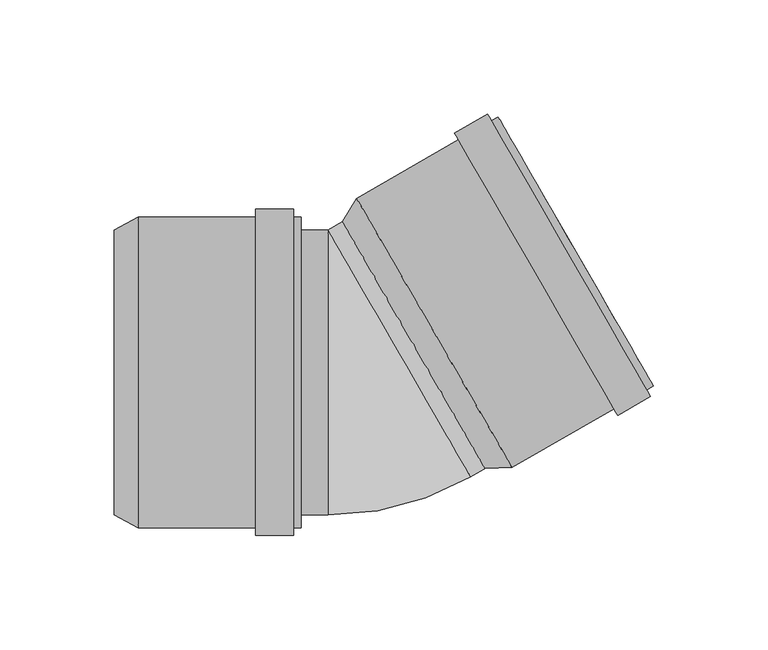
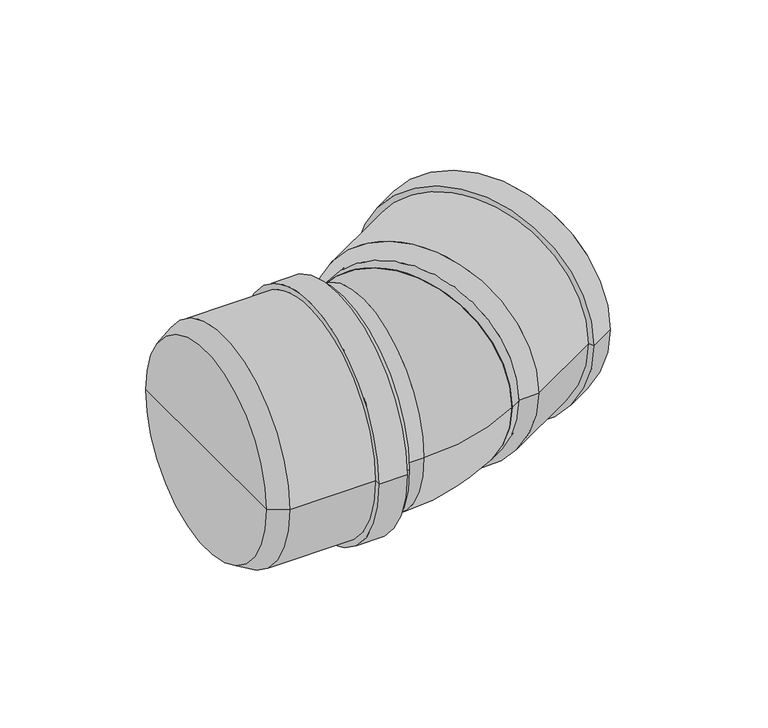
"""IFC4 building model written with IfcOpenShell, lengths in millimetres: pipe fitting geometry, pf_HTB : pf_HTB."""

from ifc_helpers import new_model, si_unit, point, frame, origin, origin_2d, place, context, project, spatial, polyline, circle_curve, ellipse_curve, trimmed, segment, composite_curve, outline, extrude, source, transform, mapped, element, save
from ifc_brep_helpers import plane_surface, cylinder_surface, revolved_surface, advanced_brep


def pipe_fitting_ec7f6db3(model_context):
    return source(origin(), model_context, "Body", "SolidModel", [
        advanced_brep(
        [(52.0346097, -42.1265877, 0.0), (-10.4653903, 66.1265877, 0.0), (-4.1721236, 76.22633, 0.0), (63.9278764, -41.72633, 0.0), (20.7846097, 12.0, 0.0), (125.8486928, -5.97633, 0.0), (57.7486928, 111.97633, 0.0), (60.5486928, 107.1265877, 0.0), (123.0486928, -1.1265877, 0.0), (122.9042064, -7.67633, 0.0), (54.8042064, 110.27633, 0.0), (124.6042064, -10.6208164, 0.0), (53.1042064, 113.2208164, 0.0), (110.2281847, -18.9208164, 0.0), (38.7281847, 104.9208164, 0.0), (108.5281847, -15.97633, 0.0), (40.4281847, 101.97633, 0.0), (61.1278764, -36.8765877, 0.0), (-1.3721236, 71.3765877, 0.0), (29.8778764, 17.25, 0.0)],
        [
            (0, 1, circle_curve(frame((20.7846097, 12.0, 0.0), z_axis=(0.8660254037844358, 0.5000000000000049, 0.0), x_axis=(-0.5000000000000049, 0.8660254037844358, 0.0)), 62.5)),
            (1, 2),
            (2, 3, circle_curve(frame((29.8778764, 17.25, 0.0), z_axis=(-0.8660254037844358, -0.5000000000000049, 0.0), x_axis=(-0.5000000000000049, 0.8660254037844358, 0.0)), 68.1)),
            (3, 0),
            (1, 0, circle_curve(frame((20.7846097, 12.0, 0.0), z_axis=(0.8660254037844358, 0.5000000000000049, 0.0), x_axis=(-0.5000000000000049, 0.8660254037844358, 0.0)), 62.5)),
            (3, 2, circle_curve(frame((29.8778764, 17.25, 0.0), z_axis=(-0.8660254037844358, -0.5000000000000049, 0.0), x_axis=(-0.5000000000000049, 0.8660254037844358, 0.0)), 68.1)),
            (4, 1),
            (0, 4),
            (5, 6, circle_curve(frame((91.7986928, 53.0, 0.0), z_axis=(0.8660254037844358, 0.5000000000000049, 0.0), x_axis=(-0.5000000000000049, 0.8660254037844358, 0.0)), 68.1)),
            (6, 7),
            (7, 8, circle_curve(frame((91.7986928, 53.0, 0.0), z_axis=(-0.8660254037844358, -0.5000000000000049, 0.0), x_axis=(-0.5000000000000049, 0.8660254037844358, 0.0)), 62.5)),
            (8, 5),
            (6, 5, circle_curve(frame((91.7986928, 53.0, 0.0), z_axis=(0.8660254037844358, 0.5000000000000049, 0.0), x_axis=(-0.5000000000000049, 0.8660254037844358, 0.0)), 68.1)),
            (8, 7, circle_curve(frame((91.7986928, 53.0, 0.0), z_axis=(-0.8660254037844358, -0.5000000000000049, 0.0), x_axis=(-0.5000000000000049, 0.8660254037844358, 0.0)), 62.5)),
            (9, 10, circle_curve(frame((88.8542064, 51.3, 0.0), z_axis=(0.8660254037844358, 0.5000000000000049, 0.0), x_axis=(-0.5000000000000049, 0.8660254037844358, 0.0)), 68.1)),
            (10, 6),
            (5, 9),
            (10, 9, circle_curve(frame((88.8542064, 51.3, 0.0), z_axis=(0.8660254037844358, 0.5000000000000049, 0.0), x_axis=(-0.5000000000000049, 0.8660254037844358, 0.0)), 68.1)),
            (11, 12, circle_curve(frame((88.8542064, 51.3, 0.0), z_axis=(0.8660254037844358, 0.5000000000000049, 0.0), x_axis=(-0.5000000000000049, 0.8660254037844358, 0.0)), 71.5)),
            (12, 10),
            (9, 11),
            (12, 11, circle_curve(frame((88.8542064, 51.3, 0.0), z_axis=(0.8660254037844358, 0.5000000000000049, 0.0), x_axis=(-0.5000000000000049, 0.8660254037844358, 0.0)), 71.5)),
            (13, 14, circle_curve(frame((74.4781847, 43.0, 0.0), z_axis=(0.8660254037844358, 0.5000000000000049, 0.0), x_axis=(-0.5000000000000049, 0.8660254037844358, 0.0)), 71.5)),
            (14, 12),
            (11, 13),
            (14, 13, circle_curve(frame((74.4781847, 43.0, 0.0), z_axis=(0.8660254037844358, 0.5000000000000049, 0.0), x_axis=(-0.5000000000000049, 0.8660254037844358, 0.0)), 71.5)),
            (15, 16, circle_curve(frame((74.4781847, 43.0, 0.0), z_axis=(0.8660254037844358, 0.5000000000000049, 0.0), x_axis=(-0.5000000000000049, 0.8660254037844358, 0.0)), 68.1)),
            (16, 14),
            (13, 15),
            (16, 15, circle_curve(frame((74.4781847, 43.0, 0.0), z_axis=(0.8660254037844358, 0.5000000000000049, 0.0), x_axis=(-0.5000000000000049, 0.8660254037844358, 0.0)), 68.1)),
            (2, 16),
            (15, 3),
            (17, 18, circle_curve(frame((29.8778764, 17.25, 0.0), z_axis=(0.8660254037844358, 0.5000000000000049, 0.0), x_axis=(-0.5000000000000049, 0.8660254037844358, 0.0)), 62.5)),
            (18, 19),
            (19, 17),
            (18, 17, circle_curve(frame((29.8778764, 17.25, 0.0), z_axis=(0.8660254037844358, 0.5000000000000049, 0.0), x_axis=(-0.5000000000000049, 0.8660254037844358, 0.0)), 62.5)),
            (7, 18),
            (17, 8),
        ],
        [
            revolved_surface(polyline([(-4.1721236, 76.22633, 0.0), (-10.4653903, 66.1265877, 0.0)]), (20.7846097, 12.0, 0.0), (-0.8660254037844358, -0.5000000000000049, 0.0)),
            plane_surface(frame((20.7846097, 12.0, 0.0), z_axis=(-0.8660254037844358, -0.5000000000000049, 0.0), x_axis=(-0.5000000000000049, 0.8660254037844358, 0.0))),
            plane_surface(frame((91.7986928, 53.0, 0.0), z_axis=(0.8660254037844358, 0.5000000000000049, 0.0), x_axis=(-0.5000000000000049, 0.8660254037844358, 0.0))),
            cylinder_surface(frame((20.7846097, 12.0, 0.0), z_axis=(-0.8660254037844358, -0.5000000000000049, 0.0), x_axis=(-0.5000000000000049, 0.8660254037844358, 0.0)), 68.1),
            plane_surface(frame((88.8542064, 51.3, 0.0), z_axis=(0.8660254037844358, 0.5000000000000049, 0.0), x_axis=(-0.5000000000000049, 0.8660254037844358, 0.0))),
            cylinder_surface(frame((20.7846097, 12.0, 0.0), z_axis=(-0.8660254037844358, -0.5000000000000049, 0.0), x_axis=(-0.5000000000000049, 0.8660254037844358, 0.0)), 71.5),
            plane_surface(frame((74.4781847, 43.0, 0.0), z_axis=(-0.8660254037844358, -0.5000000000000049, 0.0), x_axis=(-0.5000000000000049, 0.8660254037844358, 0.0))),
            plane_surface(frame((29.8778764, 17.25, 0.0), z_axis=(0.8660254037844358, 0.5000000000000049, 0.0), x_axis=(-0.5000000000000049, 0.8660254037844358, 0.0))),
            revolved_surface(polyline([(-1.3721236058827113, 71.37658771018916, 0.0), (60.54869281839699, 107.1265877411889, 0.0)]), (20.7846097, 12.0, 0.0), (-0.8660254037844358, -0.5000000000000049, 0.0)),
        ],
        [
            (0, [[1, 2, 3, 4]]),
            (0, [[5, -4, 6, -2]]),
            (1, [[7, -1, 8]]),
            (1, [[-8, -5, -7]]),
            (2, [[9, 10, 11, 12]]),
            (2, [[13, -12, 14, -10]]),
            (3, [[15, 16, -9, 17]]),
            (3, [[18, -17, -13, -16]]),
            (4, [[19, 20, -15, 21]]),
            (4, [[22, -21, -18, -20]]),
            (5, [[23, 24, -19, 25]]),
            (5, [[26, -25, -22, -24]]),
            (6, [[27, 28, -23, 29]]),
            (6, [[30, -29, -26, -28]]),
            (3, [[-3, 31, -27, 32]]),
            (3, [[-6, -32, -30, -31]]),
            (7, [[33, 34, 35]]),
            (7, [[36, -35, -34]]),
            (8, [[-11, 37, -33, 38]]),
            (8, [[-14, -38, -36, -37]]),
        ],
    ),
        advanced_brep(
        [(-110.5, -62.5, 0.0), (-110.5, 62.5, 0.0), (-100.0, 68.1, 0.0), (-100.0, -68.1, 0.0), (-110.5, 0.0, 0.0), (-28.5, -68.1, 0.0), (-28.5, 68.1, 0.0), (-28.5, 62.5, 0.0), (-28.5, -62.5, 0.0), (-31.9, -68.1, 0.0), (-31.9, 68.1, 0.0), (-31.9, -71.5, 0.0), (-31.9, 71.5, 0.0), (-48.5, -71.5, 0.0), (-48.5, 71.5, 0.0), (-48.5, -68.1, 0.0), (-48.5, 68.1, 0.0), (-100.0, -62.5, 0.0), (-100.0, 62.5, 0.0), (-100.0, 0.0, 0.0)],
        [
            (0, 1, circle_curve(frame((-110.5, 0.0, 0.0), z_axis=(1.0, 0.0, 0.0), x_axis=(0.0, 1.0, 0.0)), 62.5)),
            (1, 2),
            (2, 3, circle_curve(frame((-100.0, 0.0, 0.0), z_axis=(-1.0, 0.0, 0.0), x_axis=(0.0, 1.0, 0.0)), 68.1)),
            (3, 0),
            (1, 0, circle_curve(frame((-110.5, 0.0, 0.0), z_axis=(1.0, 0.0, 0.0), x_axis=(0.0, 1.0, 0.0)), 62.5)),
            (3, 2, circle_curve(frame((-100.0, 0.0, 0.0), z_axis=(-1.0, 0.0, 0.0), x_axis=(0.0, 1.0, 0.0)), 68.1)),
            (4, 1),
            (0, 4),
            (5, 6, circle_curve(frame((-28.5, 0.0, 0.0), z_axis=(1.0, 0.0, 0.0), x_axis=(0.0, 1.0, 0.0)), 68.1)),
            (6, 7),
            (7, 8, circle_curve(frame((-28.5, 0.0, 0.0), z_axis=(-1.0, 0.0, 0.0), x_axis=(0.0, 1.0, 0.0)), 62.5)),
            (8, 5),
            (6, 5, circle_curve(frame((-28.5, 0.0, 0.0), z_axis=(1.0, 0.0, 0.0), x_axis=(0.0, 1.0, 0.0)), 68.1)),
            (8, 7, circle_curve(frame((-28.5, 0.0, 0.0), z_axis=(-1.0, 0.0, 0.0), x_axis=(0.0, 1.0, 0.0)), 62.5)),
            (9, 10, circle_curve(frame((-31.9, 0.0, 0.0), z_axis=(1.0, 0.0, 0.0), x_axis=(0.0, 1.0, 0.0)), 68.1)),
            (10, 6),
            (5, 9),
            (10, 9, circle_curve(frame((-31.9, 0.0, 0.0), z_axis=(1.0, 0.0, 0.0), x_axis=(0.0, 1.0, 0.0)), 68.1)),
            (11, 12, circle_curve(frame((-31.9, 0.0, 0.0), z_axis=(1.0, 0.0, 0.0), x_axis=(0.0, 1.0, 0.0)), 71.5)),
            (12, 10),
            (9, 11),
            (12, 11, circle_curve(frame((-31.9, 0.0, 0.0), z_axis=(1.0, 0.0, 0.0), x_axis=(0.0, 1.0, 0.0)), 71.5)),
            (13, 14, circle_curve(frame((-48.5, 0.0, 0.0), z_axis=(1.0, 0.0, 0.0), x_axis=(0.0, 1.0, 0.0)), 71.5)),
            (14, 12),
            (11, 13),
            (14, 13, circle_curve(frame((-48.5, 0.0, 0.0), z_axis=(1.0, 0.0, 0.0), x_axis=(0.0, 1.0, 0.0)), 71.5)),
            (15, 16, circle_curve(frame((-48.5, 0.0, 0.0), z_axis=(1.0, 0.0, 0.0), x_axis=(0.0, 1.0, 0.0)), 68.1)),
            (16, 14),
            (13, 15),
            (16, 15, circle_curve(frame((-48.5, 0.0, 0.0), z_axis=(1.0, 0.0, 0.0), x_axis=(0.0, 1.0, 0.0)), 68.1)),
            (2, 16),
            (15, 3),
            (17, 18, circle_curve(frame((-100.0, 0.0, 0.0), z_axis=(1.0, 0.0, 0.0), x_axis=(0.0, 1.0, 0.0)), 62.5)),
            (18, 19),
            (19, 17),
            (18, 17, circle_curve(frame((-100.0, 0.0, 0.0), z_axis=(1.0, 0.0, 0.0), x_axis=(0.0, 1.0, 0.0)), 62.5)),
            (7, 18),
            (17, 8),
        ],
        [
            revolved_surface(polyline([(-100.0, 68.1, 0.0), (-110.5, 62.5, 0.0)]), (-110.5, 0.0, 0.0), (-1.0, 0.0, 0.0)),
            plane_surface(frame((-110.5, 0.0, 0.0), z_axis=(-1.0, 0.0, 0.0), x_axis=(0.0, 1.0, 0.0))),
            plane_surface(frame((-28.5, 0.0, 0.0), z_axis=(1.0, 0.0, 0.0), x_axis=(0.0, 1.0, 0.0))),
            cylinder_surface(frame((-110.5, 0.0, 0.0), z_axis=(-1.0, 0.0, 0.0), x_axis=(0.0, 1.0, 0.0)), 68.1),
            plane_surface(frame((-31.9, 0.0, 0.0), z_axis=(1.0, 0.0, 0.0), x_axis=(0.0, 1.0, 0.0))),
            cylinder_surface(frame((-110.5, 0.0, 0.0), z_axis=(-1.0, 0.0, 0.0), x_axis=(0.0, 1.0, 0.0)), 71.5),
            plane_surface(frame((-48.5, 0.0, 0.0), z_axis=(-1.0, 0.0, 0.0), x_axis=(0.0, 1.0, 0.0))),
            plane_surface(frame((-100.0, 0.0, 0.0), z_axis=(1.0, 0.0, 0.0), x_axis=(0.0, 1.0, 0.0))),
            revolved_surface(polyline([(-100.0, 62.5, 0.0), (-28.5, 62.5, 0.0)]), (-110.5, 0.0, 0.0), (-1.0, 0.0, 0.0)),
        ],
        [
            (0, [[1, 2, 3, 4]]),
            (0, [[5, -4, 6, -2]]),
            (1, [[7, -1, 8]]),
            (1, [[-8, -5, -7]]),
            (2, [[9, 10, 11, 12]]),
            (2, [[13, -12, 14, -10]]),
            (3, [[15, 16, -9, 17]]),
            (3, [[18, -17, -13, -16]]),
            (4, [[19, 20, -15, 21]]),
            (4, [[22, -21, -18, -20]]),
            (5, [[23, 24, -19, 25]]),
            (5, [[26, -25, -22, -24]]),
            (6, [[27, 28, -23, 29]]),
            (6, [[30, -29, -26, -28]]),
            (3, [[-3, 31, -27, 32]]),
            (3, [[-6, -32, -30, -31]]),
            (7, [[33, 34, 35]]),
            (7, [[36, -35, -34]]),
            (8, [[-11, 37, -33, 38]]),
            (8, [[-14, -38, -36, -37]]),
        ],
    ),
        extrude(outline(composite_curve([segment(trimmed(circle_curve(origin_2d(), 62.5), [point((0.0, -62.5))], [point((0.0, 62.5000001))], False, "CARTESIAN"), True, "CONTINUOUS"), segment(trimmed(circle_curve(origin_2d(), 62.5), [point((0.0, 62.5000001))], [point((0.0, -62.5))], False, "CARTESIAN"), True, "CONTINUOUS")], self_intersect=False)), frame((14.5031755, 8.3734123, 0.0), z_axis=(0.8660254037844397, 0.4999999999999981, 0.0), x_axis=(0.0, 0.0, 1.0)), (0.0, 0.0, 1.0), 17.7531755),
        extrude(outline(composite_curve([segment(trimmed(circle_curve(origin_2d(), 62.5), [point((-62.5, 0.0))], [point((62.5, 0.0))], False, "CARTESIAN"), True, "CONTINUOUS"), segment(trimmed(circle_curve(origin_2d(), 62.5), [point((62.5, 0.0))], [point((-62.5, 0.0))], False, "CARTESIAN"), True, "CONTINUOUS")], self_intersect=False)), frame((-100.0, 0.0, 0.0), z_axis=(1.0, 0.0, 0.0), x_axis=(0.0, 1.0, 0.0)), (0.0, 0.0, 1.0), 83.2531755),
        advanced_brep(
        [(-16.7468245, -62.5, 0.0), (-16.7468245, 62.5, 0.0), (45.7531755, -45.7531755, 0.0)],
        [
            (0, 1, circle_curve(frame((-16.7468245, 0.0, 0.0), z_axis=(-1.0, 0.0, 0.0), x_axis=(0.0, 1.0, 0.0)), 62.5)),
            (1, 0, circle_curve(frame((-16.7468245, 0.0, 0.0), z_axis=(-1.0, 0.0, 0.0), x_axis=(0.0, 1.0, 0.0)), 62.5)),
            (2, 1, circle_curve(frame((14.5031755, 8.3734123, 0.0), z_axis=(0.8660254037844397, 0.49999999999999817, 0.0), x_axis=(-0.49999999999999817, 0.8660254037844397, 0.0)), 62.5)),
            (1, 2, circle_curve(frame((14.5031755, 8.3734123, 0.0), z_axis=(0.8660254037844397, 0.49999999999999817, 0.0), x_axis=(-0.49999999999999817, 0.8660254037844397, 0.0)), 62.5)),
            (2, 0, circle_curve(frame((-16.7468245, 62.5, 0.0), z_axis=(0.0, 0.0, -1.0), x_axis=(0.0, -1.0, 0.0)), 125.0)),
        ],
        [
            plane_surface(frame((-16.7468245, 62.5, -14.8), z_axis=(-1.0, 0.0, 0.0), x_axis=(0.0, -1.0, 0.0))),
            plane_surface(frame((-16.7468245, 62.5, -14.8), z_axis=(0.8660254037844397, 0.4999999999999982, 0.0), x_axis=(0.4999999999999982, -0.8660254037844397, 0.0))),
            revolved_surface(trimmed(ellipse_curve(frame((-16.7468245, 0.0, 0.0), z_axis=(1.0, 0.0, 0.0), x_axis=(0.0, 1.0, 0.0)), 62.5, 62.5), [point((-16.7468245, -62.5, 0.0))], [point((-16.7468245, 62.5, 0.0))], True, "CARTESIAN"), (-16.7468245, 62.5, -14.8), (0.0, 0.0, -1.0)),
            revolved_surface(trimmed(ellipse_curve(frame((-16.7468245, 0.0, 0.0), z_axis=(1.0, 0.0, 0.0), x_axis=(0.0, 1.0, 0.0)), 62.5, 62.5), [point((-16.7468245, 62.5, 0.0))], [point((-16.7468245, -62.5, 0.0))], True, "CARTESIAN"), (-16.7468245, 62.5, -14.8), (0.0, 0.0, -1.0)),
        ],
        [
            (0, [[1, 2]]),
            (1, [[3, 4]]),
            (2, [[5, -2, -3]]),
            (3, [[-1, -5, -4]]),
        ],
    ),
    ])


if __name__ == "__main__":
    model = new_model("IFC4")
    model_context = context("Model", 3, world=origin())
    ifc_project = project(units=[si_unit("LENGTHUNIT", "METRE", prefix="MILLI")], contexts=[model_context])
    site = spatial("IfcSite", under=ifc_project)
    building = spatial("IfcBuilding", under=site)
    placement = place(None, origin())
    pipe_fitting_shape = pipe_fitting_ec7f6db3(model_context)
    element("IfcPipeFitting", 1, ObjectType="pf_HTB : pf_HTB", at=placement, inside=building, context=model_context, shape_type="MappedRepresentation", body=[
        mapped(pipe_fitting_shape, transform((0.0, 0.0, 0.0), x_axis=(1.0, 0.0, 0.0), y_axis=(0.0, 1.0, 0.0), z_axis=(0.0, 0.0, 1.0))),
    ])
    save(model, "model.ifc")
